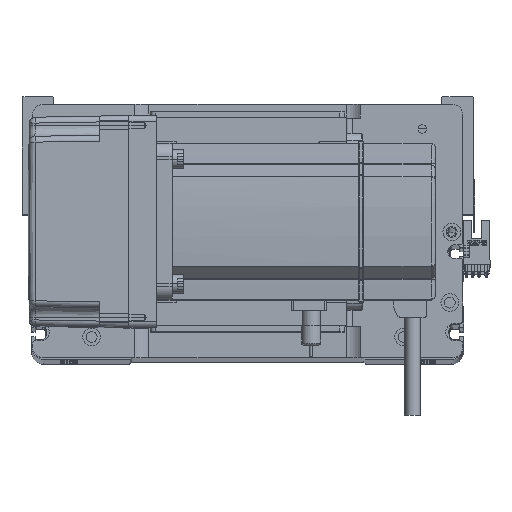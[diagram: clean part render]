
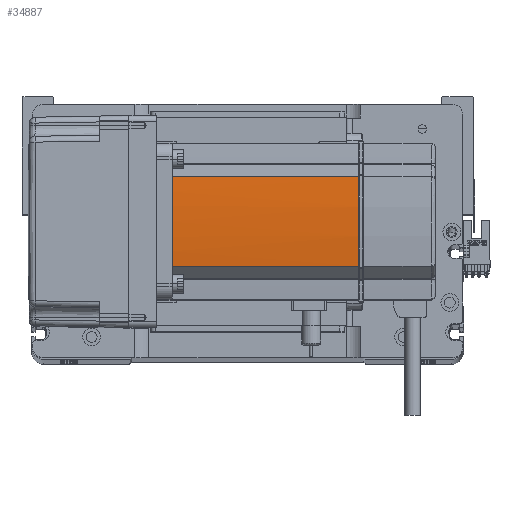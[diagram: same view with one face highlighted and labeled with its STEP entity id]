
A CAD part, top view. The second image highlights one B-rep face of the part: STEP entity #34887.
In plain terms, the highlighted cylindrical face has radius 270 mm (diameter 540 mm), a partial arc.
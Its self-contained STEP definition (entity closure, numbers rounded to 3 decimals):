
#1112 = AXIS2_PLACEMENT_3D ( 'NONE', #36060, #40138, #7667 ) ;
#1563 = EDGE_CURVE ( 'NONE', #2941, #32538, #27092, .T. ) ;
#2098 = ORIENTED_EDGE ( 'NONE', *, *, #1563, .T. ) ;
#2258 = DIRECTION ( 'NONE',  ( 0., 0., -1. ) ) ;
#2791 = VERTEX_POINT ( 'NONE', #50392 ) ;
#2941 = VERTEX_POINT ( 'NONE', #14028 ) ;
#3770 = B_SPLINE_CURVE_WITH_KNOTS ( 'NONE', 3,
 ( #51984, #44201, #19747, #39920 ),
 .UNSPECIFIED., .F., .F.,
 ( 4, 4 ),
 ( 0., 1. ),
 .UNSPECIFIED. ) ;
#5136 = LINE ( 'NONE', #22914, #14710 ) ;
#7667 = DIRECTION ( 'NONE',  ( -1., 0., 0. ) ) ;
#8201 = DIRECTION ( 'NONE',  ( 0., 0., -1. ) ) ;
#8750 = DIRECTION ( 'NONE',  ( 0., 0., -1. ) ) ;
#10526 = AXIS2_PLACEMENT_3D ( 'NONE', #48849, #8201, #12329 ) ;
#11206 = EDGE_CURVE ( 'NONE', #48689, #22612, #3770, .T. ) ;
#11416 = AXIS2_PLACEMENT_3D ( 'NONE', #33381, #8750, #25325 ) ;
#12172 = DIRECTION ( 'NONE',  ( 0., 0., -1. ) ) ;
#12317 = EDGE_CURVE ( 'NONE', #2941, #20473, #31303, .T. ) ;
#12329 = DIRECTION ( 'NONE',  ( -1., 0., 0. ) ) ;
#12359 = CARTESIAN_POINT ( 'NONE',  ( -230., 0., 134. ) ) ;
#13316 = CARTESIAN_POINT ( 'NONE',  ( 40., -0.127, 134. ) ) ;
#13359 = CYLINDRICAL_SURFACE ( 'NONE', #1112, 270. ) ;
#14028 = CARTESIAN_POINT ( 'NONE',  ( 39.042, 22.724, 39. ) ) ;
#14710 = VECTOR ( 'NONE', #2258, 1000. ) ;
#15479 = CARTESIAN_POINT ( 'NONE',  ( 39.042, 22.724, 58. ) ) ;
#16374 = CARTESIAN_POINT ( 'NONE',  ( 40., 0.127, 134. ) ) ;
#19747 = CARTESIAN_POINT ( 'NONE',  ( 40., 0.042, 134. ) ) ;
#20473 = VERTEX_POINT ( 'NONE', #50251 ) ;
#21835 = ORIENTED_EDGE ( 'NONE', *, *, #12317, .F. ) ;
#22612 = VERTEX_POINT ( 'NONE', #16374 ) ;
#22914 = CARTESIAN_POINT ( 'NONE',  ( 39.042, -22.724, 58. ) ) ;
#24419 = ORIENTED_EDGE ( 'NONE', *, *, #11206, .F. ) ;
#25325 = DIRECTION ( 'NONE',  ( -1., 0., 0. ) ) ;
#27092 = LINE ( 'NONE', #15479, #45020 ) ;
#28881 = CARTESIAN_POINT ( 'NONE',  ( 39.042, 22.724, 134. ) ) ;
#29344 = FACE_OUTER_BOUND ( 'NONE', #46225, .T. ) ;
#30558 = ORIENTED_EDGE ( 'NONE', *, *, #44676, .T. ) ;
#31168 = DIRECTION ( 'NONE',  ( 0., 0., 1. ) ) ;
#31303 = CIRCLE ( 'NONE', #10526, 270. ) ;
#31429 = EDGE_CURVE ( 'NONE', #2791, #20473, #5136, .T. ) ;
#32538 = VERTEX_POINT ( 'NONE', #28881 ) ;
#33381 = CARTESIAN_POINT ( 'NONE',  ( -230., 0., 134. ) ) ;
#34887 = ADVANCED_FACE ( 'NONE', ( #29344 ), #13359, .T. ) ;
#36060 = CARTESIAN_POINT ( 'NONE',  ( -230., 0., 58. ) ) ;
#39599 = CIRCLE ( 'NONE', #44233, 270. ) ;
#39739 = CIRCLE ( 'NONE', #11416, 270. ) ;
#39920 = CARTESIAN_POINT ( 'NONE',  ( 40., 0.127, 134. ) ) ;
#40138 = DIRECTION ( 'NONE',  ( 0., 0., -1. ) ) ;
#40536 = DIRECTION ( 'NONE',  ( -1., 0., 0. ) ) ;
#44201 = CARTESIAN_POINT ( 'NONE',  ( 40., -0.042, 134. ) ) ;
#44233 = AXIS2_PLACEMENT_3D ( 'NONE', #12359, #12172, #40536 ) ;
#44676 = EDGE_CURVE ( 'NONE', #32538, #22612, #39739, .T. ) ;
#45020 = VECTOR ( 'NONE', #31168, 1000. ) ;
#45145 = ORIENTED_EDGE ( 'NONE', *, *, #31429, .T. ) ;
#45781 = EDGE_CURVE ( 'NONE', #48689, #2791, #39599, .T. ) ;
#45863 = ORIENTED_EDGE ( 'NONE', *, *, #45781, .T. ) ;
#46225 = EDGE_LOOP ( 'NONE', ( #45145, #21835, #2098, #30558, #24419, #45863 ) ) ;
#48689 = VERTEX_POINT ( 'NONE', #13316 ) ;
#48849 = CARTESIAN_POINT ( 'NONE',  ( -230., 0., 39. ) ) ;
#50251 = CARTESIAN_POINT ( 'NONE',  ( 39.042, -22.724, 39. ) ) ;
#50392 = CARTESIAN_POINT ( 'NONE',  ( 39.042, -22.724, 134. ) ) ;
#51984 = CARTESIAN_POINT ( 'NONE',  ( 40., -0.127, 134. ) ) ;
